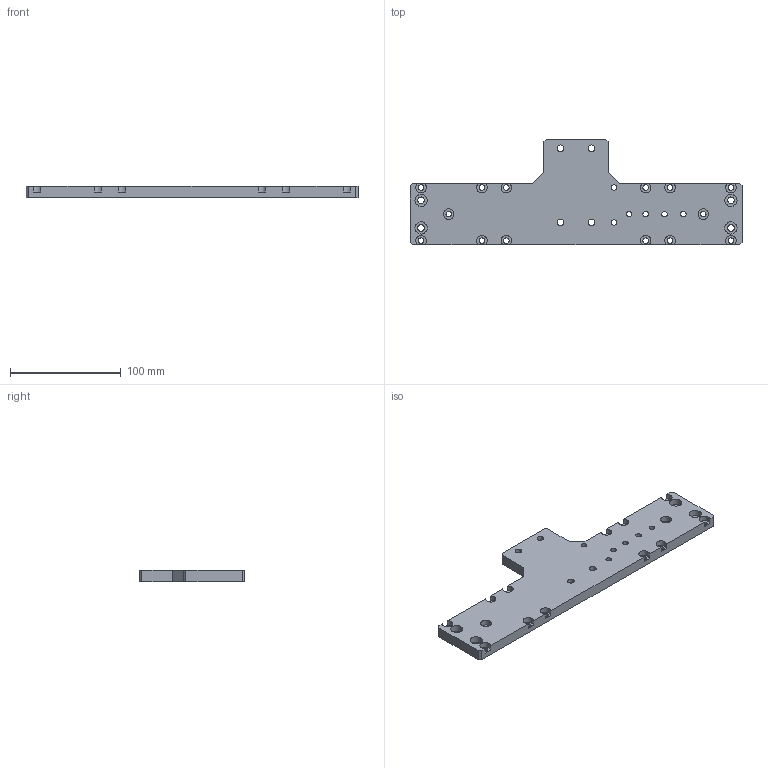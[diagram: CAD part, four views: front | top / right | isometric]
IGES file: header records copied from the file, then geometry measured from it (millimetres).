
Start section:  PTC IGES file: h120-k60l-tp.igs
Global section: file name: h120-k60l-tp.igs; native system: Pro/ENGINEER by Parametric Technology Corporation; preprocessor: 2008230; author: Owner; organization: Unknown; date: 20121211.140327; units: millimetre
Bounding box: 300 x 95 x 10 mm (x, y, z)
Surface area: 50299.4 mm2 (no closed solid volume)
Topology: 0 solids, 0 shells, 146 faces, 768 edges, 768 vertices
Faces by surface type: revolution 100, bspline 46
